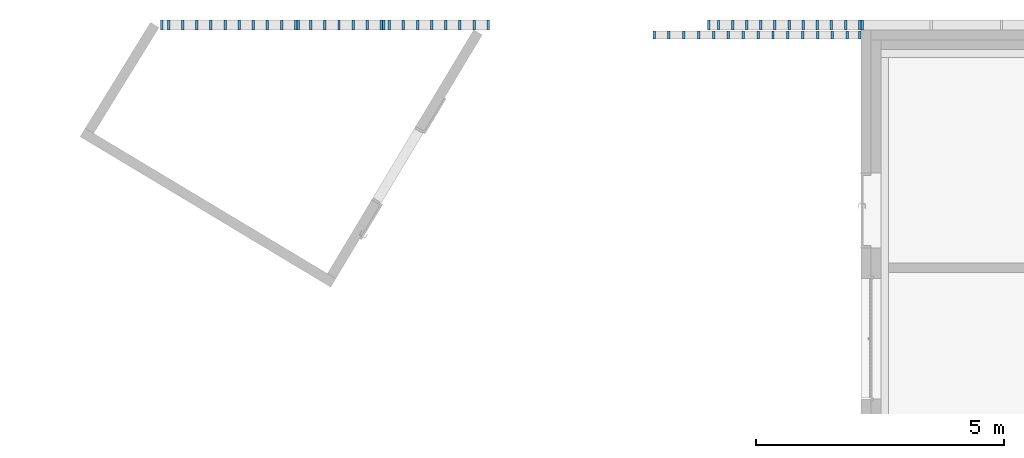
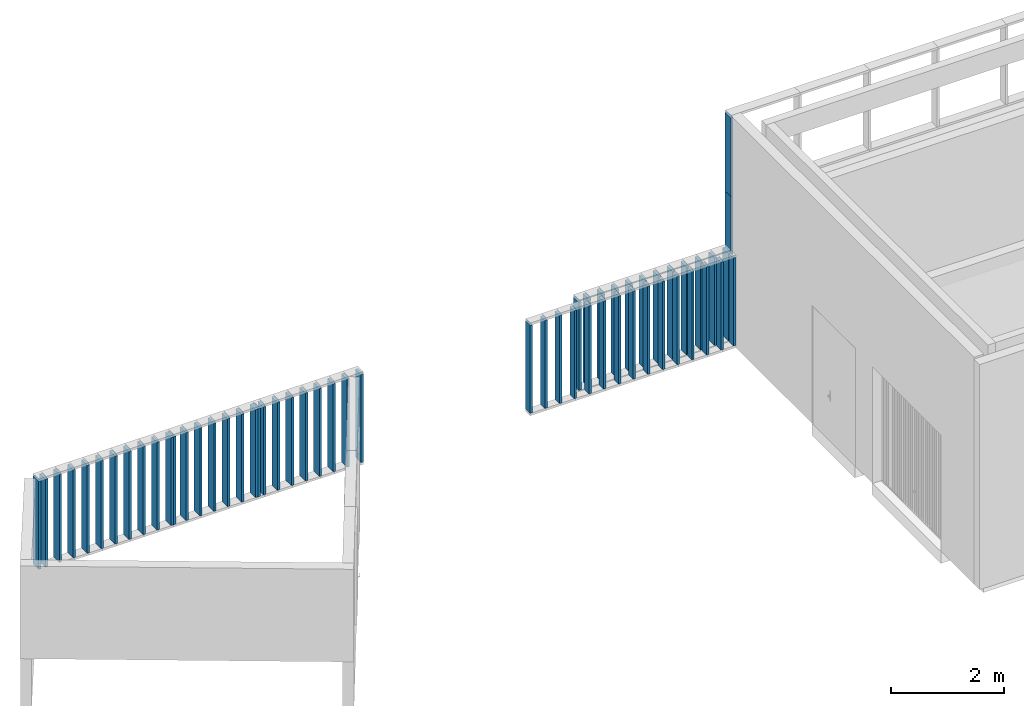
# One storey, part 11 of 240: 56 members, 6 elements without a shape of their own.
"""IFC2X3 building model written with IfcOpenShell, lengths in centimetres."""

from ifc_helpers import new_model, entity, si_unit, converted_unit, derived_unit, direction, frame, origin, origin_2d_with_axis, place, context, subcontext, project, spatial, rectangle, extrude, source, transform, mapped, material, type_object, type_shapes, element, aggregate, save


model = new_model("IFC2X3")

# Units and contexts
model_context = context("Model", 3, precision=0.001, world=origin(), true_north=direction((6.12303176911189e-17, 1.0)))
body_context = subcontext(model_context, "Body", "Model", "MODEL_VIEW")
ifc_project = project(units=[si_unit("LENGTHUNIT", "METRE", prefix="CENTI"), si_unit("AREAUNIT", "SQUARE_METRE"), si_unit("VOLUMEUNIT", "CUBIC_METRE"), converted_unit("PLANEANGLEUNIT", "DEGREE", entity("IfcRatioMeasure", 0.0174532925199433), si_unit("PLANEANGLEUNIT", "RADIAN"), dimensions=[0, 0, 0, 0, 0, 0, 0]), si_unit("MASSUNIT", "GRAM", prefix="KILO"), derived_unit("MASSDENSITYUNIT", [(si_unit("MASSUNIT", "GRAM", prefix="KILO"), 1), (si_unit("LENGTHUNIT", "METRE"), -3)]), si_unit("TIMEUNIT", "SECOND"), si_unit("FREQUENCYUNIT", "HERTZ"), si_unit("THERMODYNAMICTEMPERATUREUNIT", "DEGREE_CELSIUS"), derived_unit("THERMALTRANSMITTANCEUNIT", [(si_unit("MASSUNIT", "GRAM", prefix="KILO"), 1), (si_unit("THERMODYNAMICTEMPERATUREUNIT", "KELVIN"), -1), (si_unit("TIMEUNIT", "SECOND"), -3)]), derived_unit("VOLUMETRICFLOWRATEUNIT", [(si_unit("LENGTHUNIT", "METRE"), 3), (si_unit("TIMEUNIT", "SECOND"), -1)]), si_unit("ELECTRICCURRENTUNIT", "AMPERE"), si_unit("ELECTRICVOLTAGEUNIT", "VOLT"), si_unit("POWERUNIT", "WATT"), si_unit("FORCEUNIT", "NEWTON", prefix="KILO"), si_unit("ILLUMINANCEUNIT", "LUX"), si_unit("LUMINOUSFLUXUNIT", "LUMEN"), si_unit("LUMINOUSINTENSITYUNIT", "CANDELA"), derived_unit("USERDEFINED", [(si_unit("MASSUNIT", "GRAM", prefix="KILO"), -1), (si_unit("LENGTHUNIT", "METRE"), -2), (si_unit("TIMEUNIT", "SECOND"), 3), (si_unit("LUMINOUSFLUXUNIT", "LUMEN"), 1)]), derived_unit("LINEARVELOCITYUNIT", [(si_unit("LENGTHUNIT", "METRE"), 1), (si_unit("TIMEUNIT", "SECOND"), -1)]), si_unit("PRESSUREUNIT", "PASCAL"), derived_unit("USERDEFINED", [(si_unit("LENGTHUNIT", "METRE"), -2), (si_unit("MASSUNIT", "GRAM", prefix="KILO"), 1), (si_unit("TIMEUNIT", "SECOND"), -2)])], contexts=[model_context])

# Site, building, storey
site_placement = place(None, frame((-2781.94577612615, 7442.24238424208, 0.0)))
site = spatial("IfcSite", under=ifc_project, at=site_placement, Name="Default", CompositionType="ELEMENT")
building_placement = place(site_placement, origin())
building = spatial("IfcBuilding", under=site, at=building_placement, CompositionType="ELEMENT")
storey_placement = place(building_placement, origin())
storey = spatial("IfcBuildingStorey", under=building, at=storey_placement, Name="N00 - COO", CompositionType="ELEMENT", Elevation=0.0)

# Curtain wall, members
curtain_wall_type_1 = type_object("IfcCurtainWallType", Name="Mur-rideau:Epines - 200x50mm", PredefinedType="NOTDEFINED")
curtain_wall_1_placement = place(building_placement, origin())
curtain_wall_1 = element("IfcCurtainWall", 1, at=curtain_wall_1_placement, inside=storey, type_object=curtain_wall_type_1, Name="Mur-rideau:Epines - 200x50mm", ObjectType="Mur-rideau:Epines - 200x50mm")
ifc_material = material(Name="Aluminium")
member_type_1 = type_object("IfcMemberType", Name="200x50 mm", PredefinedType="MEMBER")
shared_shape_1 = source(origin(), body_context, "Body", "SweptSolid", [
    extrude(rectangle(XDim=20.0, YDim=5.0, at=origin_2d_with_axis()), frame((-2.5, 0.0, -170.0), z_axis=(0.0, 0.0, 1.0), x_axis=(0.0, -1.0, 0.0)), (0.0, 0.0, 1.0), 169.999999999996),
])
type_shapes(member_type_1, [shared_shape_1])
member_1_placement = place(building_placement, frame((-11230.6616968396, 40.0, 485.0), z_axis=(0.0, 0.0, 1.0), x_axis=(-1.0, 0.0, 0.0)))
member_1 = element("IfcMember", 2, at=member_1_placement, type_object=member_type_1, material=ifc_material, Name="Meneau rectangulaire:200x50 mm", ObjectType="Meneau rectangulaire:200x50 mm", context=body_context, shape_type="MappedRepresentation", body=[
    mapped(shared_shape_1, transform((0.0, 0.0, 0.0), scale=1.0)),
])
member_type_2 = type_object("IfcMemberType", Name="200x50 mm", PredefinedType="MEMBER")
shared_shape_2 = source(origin(), body_context, "Body", "SweptSolid", [
    extrude(rectangle(XDim=20.0, YDim=5.0, at=origin_2d_with_axis()), frame((-2.5, 0.0, -310.0), z_axis=(0.0, 0.0, 1.0), x_axis=(0.0, -1.0, 0.0)), (0.0, 0.0, 1.0), 310.0),
])
type_shapes(member_type_2, [shared_shape_2])
member_2_placement = place(building_placement, frame((-11230.6616968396, 40.0, 315.0), z_axis=(0.0, 0.0, 1.0), x_axis=(-1.0, 0.0, 0.0)))
member_2 = element("IfcMember", 3, at=member_2_placement, type_object=member_type_2, material=ifc_material, Name="Meneau rectangulaire:200x50 mm", ObjectType="Meneau rectangulaire:200x50 mm", context=body_context, shape_type="MappedRepresentation", body=[
    mapped(shared_shape_2, transform((0.0, 0.0, 0.0), scale=1.0)),
])
aggregate(curtain_wall_1, [member_1, member_2])

curtain_wall_type_2 = type_object("IfcCurtainWallType", Name="Mur-SR", PredefinedType="NOTDEFINED")
curtain_wall_2_placement = place(storey_placement, origin())
curtain_wall_2 = element("IfcCurtainWall", 4, at=curtain_wall_2_placement, inside=storey, type_object=curtain_wall_type_2, Name="Mur-SR", ObjectType="Mur-SR")
member_type_3 = type_object("IfcMemberType", Name="Epine nord (200x50 mm)", PredefinedType="MEMBER")
shared_shape_3 = source(origin(), body_context, "Body", "SweptSolid", [
    extrude(rectangle(XDim=20.0, YDim=5.0, at=origin_2d_with_axis()), frame((0.0, 0.0, -190.0), z_axis=(0.0, 0.0, 1.0), x_axis=(0.0, -1.0, 0.0)), (0.0, 0.0, 1.0), 190.0),
])
type_shapes(member_type_3, [shared_shape_3])
member_3_placement = place(storey_placement, frame((-11261.6616968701, 40.0, 5.0), z_axis=(0.0, 0.0, -1.0), x_axis=(-1.0, 0.0, 0.0)))
member_3 = element("IfcMember", 5, at=member_3_placement, type_object=member_type_3, material=ifc_material, Name="Meneau rectangulaire:Epine nord (200x50 mm)", ObjectType="Meneau rectangulaire:Epine nord (200x50 mm)", context=body_context, shape_type="MappedRepresentation", body=[
    mapped(shared_shape_3, transform((0.0, 0.0, 0.0), scale=1.0)),
])
member_4_placement = place(storey_placement, frame((-11290.1616968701, 40.0, 5.0), z_axis=(0.0, 0.0, -1.0), x_axis=(-1.0, 0.0, 0.0)))
member_4 = element("IfcMember", 6, at=member_4_placement, type_object=member_type_3, material=ifc_material, Name="Meneau rectangulaire:Epine nord (200x50 mm)", ObjectType="Meneau rectangulaire:Epine nord (200x50 mm)", context=body_context, shape_type="MappedRepresentation", body=[
    mapped(shared_shape_3, transform((0.0, 0.0, 0.0), scale=1.0)),
])
member_5_placement = place(storey_placement, frame((-11318.6616968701, 40.0, 5.0), z_axis=(0.0, 0.0, -1.0), x_axis=(-1.0, 0.0, 0.0)))
member_5 = element("IfcMember", 7, at=member_5_placement, type_object=member_type_3, material=ifc_material, Name="Meneau rectangulaire:Epine nord (200x50 mm)", ObjectType="Meneau rectangulaire:Epine nord (200x50 mm)", context=body_context, shape_type="MappedRepresentation", body=[
    mapped(shared_shape_3, transform((0.0, 0.0, 0.0), scale=1.0)),
])
member_6_placement = place(storey_placement, frame((-11347.1616968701, 40.0, 5.0), z_axis=(0.0, 0.0, -1.0), x_axis=(-1.0, 0.0, 0.0)))
member_6 = element("IfcMember", 8, at=member_6_placement, type_object=member_type_3, material=ifc_material, Name="Meneau rectangulaire:Epine nord (200x50 mm)", ObjectType="Meneau rectangulaire:Epine nord (200x50 mm)", context=body_context, shape_type="MappedRepresentation", body=[
    mapped(shared_shape_3, transform((0.0, 0.0, 0.0), scale=1.0)),
])
member_7_placement = place(storey_placement, frame((-11375.6616968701, 40.0, 5.0), z_axis=(0.0, 0.0, -1.0), x_axis=(-1.0, 0.0, 0.0)))
member_7 = element("IfcMember", 9, at=member_7_placement, type_object=member_type_3, material=ifc_material, Name="Meneau rectangulaire:Epine nord (200x50 mm)", ObjectType="Meneau rectangulaire:Epine nord (200x50 mm)", context=body_context, shape_type="MappedRepresentation", body=[
    mapped(shared_shape_3, transform((0.0, 0.0, 0.0), scale=1.0)),
])
member_8_placement = place(storey_placement, frame((-11404.1616968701, 40.0, 5.0), z_axis=(0.0, 0.0, -1.0), x_axis=(-1.0, 0.0, 0.0)))
member_8 = element("IfcMember", 10, at=member_8_placement, type_object=member_type_3, material=ifc_material, Name="Meneau rectangulaire:Epine nord (200x50 mm)", ObjectType="Meneau rectangulaire:Epine nord (200x50 mm)", context=body_context, shape_type="MappedRepresentation", body=[
    mapped(shared_shape_3, transform((0.0, 0.0, 0.0), scale=1.0)),
])
member_9_placement = place(storey_placement, frame((-11432.6616968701, 40.0, 5.0), z_axis=(0.0, 0.0, -1.0), x_axis=(-1.0, 0.0, 0.0)))
member_9 = element("IfcMember", 11, at=member_9_placement, type_object=member_type_3, material=ifc_material, Name="Meneau rectangulaire:Epine nord (200x50 mm)", ObjectType="Meneau rectangulaire:Epine nord (200x50 mm)", context=body_context, shape_type="MappedRepresentation", body=[
    mapped(shared_shape_3, transform((0.0, 0.0, 0.0), scale=1.0)),
])
member_10_placement = place(storey_placement, frame((-11461.1616968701, 40.0, 5.0), z_axis=(0.0, 0.0, -1.0), x_axis=(-1.0, 0.0, 0.0)))
member_10 = element("IfcMember", 12, at=member_10_placement, type_object=member_type_3, material=ifc_material, Name="Meneau rectangulaire:Epine nord (200x50 mm)", ObjectType="Meneau rectangulaire:Epine nord (200x50 mm)", context=body_context, shape_type="MappedRepresentation", body=[
    mapped(shared_shape_3, transform((0.0, 0.0, 0.0), scale=1.0)),
])
member_11_placement = place(storey_placement, frame((-11489.6616968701, 40.0, 5.0), z_axis=(0.0, 0.0, -1.0), x_axis=(-1.0, 0.0, 0.0)))
member_11 = element("IfcMember", 13, at=member_11_placement, type_object=member_type_3, material=ifc_material, Name="Meneau rectangulaire:Epine nord (200x50 mm)", ObjectType="Meneau rectangulaire:Epine nord (200x50 mm)", context=body_context, shape_type="MappedRepresentation", body=[
    mapped(shared_shape_3, transform((0.0, 0.0, 0.0), scale=1.0)),
])
member_12_placement = place(storey_placement, frame((-11518.1616968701, 40.0, 5.0), z_axis=(0.0, 0.0, -1.0), x_axis=(-1.0, 0.0, 0.0)))
member_12 = element("IfcMember", 14, at=member_12_placement, type_object=member_type_3, material=ifc_material, Name="Meneau rectangulaire:Epine nord (200x50 mm)", ObjectType="Meneau rectangulaire:Epine nord (200x50 mm)", context=body_context, shape_type="MappedRepresentation", body=[
    mapped(shared_shape_3, transform((0.0, 0.0, 0.0), scale=1.0)),
])

curtain_wall_3_placement = place(storey_placement, origin())
curtain_wall_3 = element("IfcCurtainWall", 15, at=curtain_wall_3_placement, inside=storey, type_object=curtain_wall_type_2, Name="Mur-SR", ObjectType="Mur-SR")
member_13_placement = place(storey_placement, frame((-12011.5781137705, 40.0, 5.0), z_axis=(0.0, 0.0, -1.0), x_axis=(-1.0, 0.0, 0.0)))
member_13 = element("IfcMember", 16, at=member_13_placement, type_object=member_type_3, material=ifc_material, Name="Meneau rectangulaire:Epine nord (200x50 mm)", ObjectType="Meneau rectangulaire:Epine nord (200x50 mm)", context=body_context, shape_type="MappedRepresentation", body=[
    mapped(shared_shape_3, transform((0.0, 0.0, 0.0), scale=1.0)),
])
member_14_placement = place(storey_placement, frame((-12040.0781137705, 40.0, 5.0), z_axis=(0.0, 0.0, -1.0), x_axis=(-1.0, 0.0, 0.0)))
member_14 = element("IfcMember", 17, at=member_14_placement, type_object=member_type_3, material=ifc_material, Name="Meneau rectangulaire:Epine nord (200x50 mm)", ObjectType="Meneau rectangulaire:Epine nord (200x50 mm)", context=body_context, shape_type="MappedRepresentation", body=[
    mapped(shared_shape_3, transform((0.0, 0.0, 0.0), scale=1.0)),
])
member_15_placement = place(storey_placement, frame((-12068.5781137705, 40.0, 5.0), z_axis=(0.0, 0.0, -1.0), x_axis=(-1.0, 0.0, 0.0)))
member_15 = element("IfcMember", 18, at=member_15_placement, type_object=member_type_3, material=ifc_material, Name="Meneau rectangulaire:Epine nord (200x50 mm)", ObjectType="Meneau rectangulaire:Epine nord (200x50 mm)", context=body_context, shape_type="MappedRepresentation", body=[
    mapped(shared_shape_3, transform((0.0, 0.0, 0.0), scale=1.0)),
])
member_16_placement = place(storey_placement, frame((-12097.0781137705, 40.0, 5.0), z_axis=(0.0, 0.0, -1.0), x_axis=(-1.0, 0.0, 0.0)))
member_16 = element("IfcMember", 19, at=member_16_placement, type_object=member_type_3, material=ifc_material, Name="Meneau rectangulaire:Epine nord (200x50 mm)", ObjectType="Meneau rectangulaire:Epine nord (200x50 mm)", context=body_context, shape_type="MappedRepresentation", body=[
    mapped(shared_shape_3, transform((0.0, 0.0, 0.0), scale=1.0)),
])
member_17_placement = place(storey_placement, frame((-12125.5781137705, 40.0, 5.0), z_axis=(0.0, 0.0, -1.0), x_axis=(-1.0, 0.0, 0.0)))
member_17 = element("IfcMember", 20, at=member_17_placement, type_object=member_type_3, material=ifc_material, Name="Meneau rectangulaire:Epine nord (200x50 mm)", ObjectType="Meneau rectangulaire:Epine nord (200x50 mm)", context=body_context, shape_type="MappedRepresentation", body=[
    mapped(shared_shape_3, transform((0.0, 0.0, 0.0), scale=1.0)),
])
member_18_placement = place(storey_placement, frame((-12154.0781137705, 40.0, 5.0), z_axis=(0.0, 0.0, -1.0), x_axis=(-1.0, 0.0, 0.0)))
member_18 = element("IfcMember", 21, at=member_18_placement, type_object=member_type_3, material=ifc_material, Name="Meneau rectangulaire:Epine nord (200x50 mm)", ObjectType="Meneau rectangulaire:Epine nord (200x50 mm)", context=body_context, shape_type="MappedRepresentation", body=[
    mapped(shared_shape_3, transform((0.0, 0.0, 0.0), scale=1.0)),
])
member_19_placement = place(storey_placement, frame((-12182.5781137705, 40.0, 5.0), z_axis=(0.0, 0.0, -1.0), x_axis=(-1.0, 0.0, 0.0)))
member_19 = element("IfcMember", 22, at=member_19_placement, type_object=member_type_3, material=ifc_material, Name="Meneau rectangulaire:Epine nord (200x50 mm)", ObjectType="Meneau rectangulaire:Epine nord (200x50 mm)", context=body_context, shape_type="MappedRepresentation", body=[
    mapped(shared_shape_3, transform((0.0, 0.0, 0.0), scale=1.0)),
])

curtain_wall_4_placement = place(storey_placement, origin())
curtain_wall_4 = element("IfcCurtainWall", 23, at=curtain_wall_4_placement, inside=storey, type_object=curtain_wall_type_2, Name="Mur-SR", ObjectType="Mur-SR")
member_20_placement = place(storey_placement, frame((-12400.0781140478, 40.0, 5.0), z_axis=(0.0, 0.0, -1.0), x_axis=(-1.0, 0.0, 0.0)))
member_20 = element("IfcMember", 24, at=member_20_placement, type_object=member_type_3, material=ifc_material, Name="Meneau rectangulaire:Epine nord (200x50 mm)", ObjectType="Meneau rectangulaire:Epine nord (200x50 mm)", context=body_context, shape_type="MappedRepresentation", body=[
    mapped(shared_shape_3, transform((0.0, 0.0, 0.0), scale=1.0)),
])
member_21_placement = place(storey_placement, frame((-12428.5781140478, 40.0, 5.0), z_axis=(0.0, 0.0, -1.0), x_axis=(-1.0, 0.0, 0.0)))
member_21 = element("IfcMember", 25, at=member_21_placement, type_object=member_type_3, material=ifc_material, Name="Meneau rectangulaire:Epine nord (200x50 mm)", ObjectType="Meneau rectangulaire:Epine nord (200x50 mm)", context=body_context, shape_type="MappedRepresentation", body=[
    mapped(shared_shape_3, transform((0.0, 0.0, 0.0), scale=1.0)),
])
member_22_placement = place(storey_placement, frame((-12457.0781140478, 40.0, 5.0), z_axis=(0.0, 0.0, -1.0), x_axis=(-1.0, 0.0, 0.0)))
member_22 = element("IfcMember", 26, at=member_22_placement, type_object=member_type_3, material=ifc_material, Name="Meneau rectangulaire:Epine nord (200x50 mm)", ObjectType="Meneau rectangulaire:Epine nord (200x50 mm)", context=body_context, shape_type="MappedRepresentation", body=[
    mapped(shared_shape_3, transform((0.0, 0.0, 0.0), scale=1.0)),
])
member_23_placement = place(storey_placement, frame((-12485.5781140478, 40.0, 5.0), z_axis=(0.0, 0.0, -1.0), x_axis=(-1.0, 0.0, 0.0)))
member_23 = element("IfcMember", 27, at=member_23_placement, type_object=member_type_3, material=ifc_material, Name="Meneau rectangulaire:Epine nord (200x50 mm)", ObjectType="Meneau rectangulaire:Epine nord (200x50 mm)", context=body_context, shape_type="MappedRepresentation", body=[
    mapped(shared_shape_3, transform((0.0, 0.0, 0.0), scale=1.0)),
])
member_24_placement = place(storey_placement, frame((-12514.0781140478, 40.0, 5.0), z_axis=(0.0, 0.0, -1.0), x_axis=(-1.0, 0.0, 0.0)))
member_24 = element("IfcMember", 28, at=member_24_placement, type_object=member_type_3, material=ifc_material, Name="Meneau rectangulaire:Epine nord (200x50 mm)", ObjectType="Meneau rectangulaire:Epine nord (200x50 mm)", context=body_context, shape_type="MappedRepresentation", body=[
    mapped(shared_shape_3, transform((0.0, 0.0, 0.0), scale=1.0)),
])
member_25_placement = place(storey_placement, frame((-12542.5781140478, 40.0, 5.0), z_axis=(0.0, 0.0, -1.0), x_axis=(-1.0, 0.0, 0.0)))
member_25 = element("IfcMember", 29, at=member_25_placement, type_object=member_type_3, material=ifc_material, Name="Meneau rectangulaire:Epine nord (200x50 mm)", ObjectType="Meneau rectangulaire:Epine nord (200x50 mm)", context=body_context, shape_type="MappedRepresentation", body=[
    mapped(shared_shape_3, transform((0.0, 0.0, 0.0), scale=1.0)),
])
member_26_placement = place(storey_placement, frame((-12571.0781140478, 40.0, 5.0), z_axis=(0.0, 0.0, -1.0), x_axis=(-1.0, 0.0, 0.0)))
member_26 = element("IfcMember", 30, at=member_26_placement, type_object=member_type_3, material=ifc_material, Name="Meneau rectangulaire:Epine nord (200x50 mm)", ObjectType="Meneau rectangulaire:Epine nord (200x50 mm)", context=body_context, shape_type="MappedRepresentation", body=[
    mapped(shared_shape_3, transform((0.0, 0.0, 0.0), scale=1.0)),
])
member_27_placement = place(storey_placement, frame((-12599.5781140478, 40.0, 5.0), z_axis=(0.0, 0.0, -1.0), x_axis=(-1.0, 0.0, 0.0)))
member_27 = element("IfcMember", 31, at=member_27_placement, type_object=member_type_3, material=ifc_material, Name="Meneau rectangulaire:Epine nord (200x50 mm)", ObjectType="Meneau rectangulaire:Epine nord (200x50 mm)", context=body_context, shape_type="MappedRepresentation", body=[
    mapped(shared_shape_3, transform((0.0, 0.0, 0.0), scale=1.0)),
])
member_28_placement = place(storey_placement, frame((-12628.0781140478, 40.0, 5.0), z_axis=(0.0, 0.0, -1.0), x_axis=(-1.0, 0.0, 0.0)))
member_28 = element("IfcMember", 32, at=member_28_placement, type_object=member_type_3, material=ifc_material, Name="Meneau rectangulaire:Epine nord (200x50 mm)", ObjectType="Meneau rectangulaire:Epine nord (200x50 mm)", context=body_context, shape_type="MappedRepresentation", body=[
    mapped(shared_shape_3, transform((0.0, 0.0, 0.0), scale=1.0)),
])

curtain_wall_5_placement = place(storey_placement, origin())
curtain_wall_5 = element("IfcCurtainWall", 33, at=curtain_wall_5_placement, inside=storey, type_object=curtain_wall_type_2, Name="Mur-SR", ObjectType="Mur-SR")
member_29_placement = place(storey_placement, frame((-12227.0781140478, 40.0, 5.0), z_axis=(0.0, 0.0, -1.0), x_axis=(-1.0, 0.0, 0.0)))
member_29 = element("IfcMember", 34, at=member_29_placement, type_object=member_type_3, material=ifc_material, Name="Meneau rectangulaire:Epine nord (200x50 mm)", ObjectType="Meneau rectangulaire:Epine nord (200x50 mm)", context=body_context, shape_type="MappedRepresentation", body=[
    mapped(shared_shape_3, transform((0.0, 0.0, 0.0), scale=1.0)),
])
member_30_placement = place(storey_placement, frame((-12255.5781140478, 40.0, 5.0), z_axis=(0.0, 0.0, -1.0), x_axis=(-1.0, 0.0, 0.0)))
member_30 = element("IfcMember", 35, at=member_30_placement, type_object=member_type_3, material=ifc_material, Name="Meneau rectangulaire:Epine nord (200x50 mm)", ObjectType="Meneau rectangulaire:Epine nord (200x50 mm)", context=body_context, shape_type="MappedRepresentation", body=[
    mapped(shared_shape_3, transform((0.0, 0.0, 0.0), scale=1.0)),
])
member_31_placement = place(storey_placement, frame((-12284.0781140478, 40.0, 5.0), z_axis=(0.0, 0.0, -1.0), x_axis=(-1.0, 0.0, 0.0)))
member_31 = element("IfcMember", 36, at=member_31_placement, type_object=member_type_3, material=ifc_material, Name="Meneau rectangulaire:Epine nord (200x50 mm)", ObjectType="Meneau rectangulaire:Epine nord (200x50 mm)", context=body_context, shape_type="MappedRepresentation", body=[
    mapped(shared_shape_3, transform((0.0, 0.0, 0.0), scale=1.0)),
])
member_32_placement = place(storey_placement, frame((-12312.5781140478, 40.0, 5.0), z_axis=(0.0, 0.0, -1.0), x_axis=(-1.0, 0.0, 0.0)))
member_32 = element("IfcMember", 37, at=member_32_placement, type_object=member_type_3, material=ifc_material, Name="Meneau rectangulaire:Epine nord (200x50 mm)", ObjectType="Meneau rectangulaire:Epine nord (200x50 mm)", context=body_context, shape_type="MappedRepresentation", body=[
    mapped(shared_shape_3, transform((0.0, 0.0, 0.0), scale=1.0)),
])
member_33_placement = place(storey_placement, frame((-12341.0781140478, 40.0, 5.0), z_axis=(0.0, 0.0, -1.0), x_axis=(-1.0, 0.0, 0.0)))
member_33 = element("IfcMember", 38, at=member_33_placement, type_object=member_type_3, material=ifc_material, Name="Meneau rectangulaire:Epine nord (200x50 mm)", ObjectType="Meneau rectangulaire:Epine nord (200x50 mm)", context=body_context, shape_type="MappedRepresentation", body=[
    mapped(shared_shape_3, transform((0.0, 0.0, 0.0), scale=1.0)),
])

# Member
member_type_4 = type_object("IfcMemberType", Name="Epine nord (200x50 mm)", PredefinedType="MEMBER")
shared_shape_4 = source(origin(), body_context, "Body", "SweptSolid", [
    extrude(rectangle(XDim=20.0, YDim=5.0, at=origin_2d_with_axis()), frame((-2.5, 0.0, -190.0), z_axis=(0.0, 0.0, 1.0), x_axis=(0.0, -1.0, 0.0)), (0.0, 0.0, 1.0), 190.0),
])
type_shapes(member_type_4, [shared_shape_4])
member_34_placement = place(storey_placement, frame((-11230.6616968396, 40.0, 195.0)))
member_34 = element("IfcMember", 39, at=member_34_placement, type_object=member_type_4, material=ifc_material, Name="Meneau rectangulaire:Epine nord (200x50 mm)", ObjectType="Meneau rectangulaire:Epine nord (200x50 mm)", context=body_context, shape_type="MappedRepresentation", body=[
    mapped(shared_shape_4, transform((0.0, 0.0, 0.0), scale=1.0)),
])

member_35_placement = place(storey_placement, frame((-11980.57811374, 40.0, 195.0)))
member_35 = element("IfcMember", 40, at=member_35_placement, type_object=member_type_4, material=ifc_material, Name="Meneau rectangulaire:Epine nord (200x50 mm)", ObjectType="Meneau rectangulaire:Epine nord (200x50 mm)", context=body_context, shape_type="MappedRepresentation", body=[
    mapped(shared_shape_4, transform((0.0, 0.0, 0.0), scale=1.0)),
])

member_36_placement = place(storey_placement, frame((-12369.0781140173, 40.0, 195.0)))
member_36 = element("IfcMember", 41, at=member_36_placement, type_object=member_type_4, material=ifc_material, Name="Meneau rectangulaire:Epine nord (200x50 mm)", ObjectType="Meneau rectangulaire:Epine nord (200x50 mm)", context=body_context, shape_type="MappedRepresentation", body=[
    mapped(shared_shape_4, transform((0.0, 0.0, 0.0), scale=1.0)),
])

member_37_placement = place(storey_placement, frame((-12196.0781140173, 40.0, 195.0)))
member_37 = element("IfcMember", 42, at=member_37_placement, type_object=member_type_4, material=ifc_material, Name="Meneau rectangulaire:Epine nord (200x50 mm)", ObjectType="Meneau rectangulaire:Epine nord (200x50 mm)", context=body_context, shape_type="MappedRepresentation", body=[
    mapped(shared_shape_4, transform((0.0, 0.0, 0.0), scale=1.0)),
])

member_type_5 = type_object("IfcMemberType", Name="Epine nord (200x50 mm)", PredefinedType="MEMBER")
shared_shape_5 = source(origin(), body_context, "Body", "SweptSolid", [
    extrude(rectangle(XDim=20.0, YDim=5.0, at=origin_2d_with_axis()), frame((-2.5, 0.0, -190.0), z_axis=(0.0, 0.0, 1.0), x_axis=(0.0, -1.0, 0.0)), (0.0, 0.0, 1.0), 190.0),
])
type_shapes(member_type_5, [shared_shape_5])
member_38_placement = place(storey_placement, frame((-11540.6749531, 40.0, 5.0), z_axis=(0.0, 0.0, -1.0), x_axis=(-1.0, 0.0, 0.0)))
member_38 = element("IfcMember", 43, at=member_38_placement, type_object=member_type_5, material=ifc_material, Name="Meneau rectangulaire:Epine nord (200x50 mm)", ObjectType="Meneau rectangulaire:Epine nord (200x50 mm)", context=body_context, shape_type="MappedRepresentation", body=[
    mapped(shared_shape_5, transform((0.0, 0.0, 0.0), scale=1.0)),
])

aggregate(curtain_wall_2, [member_3, member_4, member_5, member_6, member_7, member_8, member_9, member_10, member_11, member_12, member_34, member_38])

member_39_placement = place(storey_placement, frame((-12196.0781140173, 40.0, 5.0), z_axis=(0.0, 0.0, -1.0), x_axis=(-1.0, 0.0, 0.0)))
member_39 = element("IfcMember", 44, at=member_39_placement, type_object=member_type_5, material=ifc_material, Name="Meneau rectangulaire:Epine nord (200x50 mm)", ObjectType="Meneau rectangulaire:Epine nord (200x50 mm)", context=body_context, shape_type="MappedRepresentation", body=[
    mapped(shared_shape_5, transform((0.0, 0.0, 0.0), scale=1.0)),
])

aggregate(curtain_wall_3, [member_13, member_14, member_15, member_16, member_17, member_18, member_35, member_39, member_19])

member_40_placement = place(storey_placement, frame((-12644.1680350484, 40.0, 5.0), z_axis=(0.0, 0.0, -1.0), x_axis=(-1.0, 0.0, 0.0)))
member_40 = element("IfcMember", 45, at=member_40_placement, type_object=member_type_5, material=ifc_material, Name="Meneau rectangulaire:Epine nord (200x50 mm)", ObjectType="Meneau rectangulaire:Epine nord (200x50 mm)", context=body_context, shape_type="MappedRepresentation", body=[
    mapped(shared_shape_5, transform((0.0, 0.0, 0.0), scale=1.0)),
])

aggregate(curtain_wall_4, [member_40, member_20, member_21, member_22, member_23, member_24, member_25, member_26, member_27, member_28, member_36])

member_41_placement = place(storey_placement, frame((-12369.0781140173, 40.0, 5.0), z_axis=(0.0, 0.0, -1.0), x_axis=(-1.0, 0.0, 0.0)))
member_41 = element("IfcMember", 46, at=member_41_placement, type_object=member_type_5, material=ifc_material, Name="Meneau rectangulaire:Epine nord (200x50 mm)", ObjectType="Meneau rectangulaire:Epine nord (200x50 mm)", context=body_context, shape_type="MappedRepresentation", body=[
    mapped(shared_shape_5, transform((0.0, 0.0, 0.0), scale=1.0)),
])

aggregate(curtain_wall_5, [member_29, member_30, member_31, member_32, member_33, member_37, member_41])

# Curtain wall, members
curtain_wall_type_3 = type_object("IfcCurtainWallType", Name="Mur-SR", PredefinedType="NOTDEFINED")
curtain_wall_6_placement = place(storey_placement, origin())
curtain_wall_6 = element("IfcCurtainWall", 47, at=curtain_wall_6_placement, inside=storey, type_object=curtain_wall_type_3, Name="Mur-SR", ObjectType="Mur-SR")
member_type_6 = type_object("IfcMemberType", Name="Epine nord (160x50 mm)", PredefinedType="MEMBER")
shared_shape_6 = source(origin(), body_context, "Body", "SweptSolid", [
    extrude(rectangle(XDim=16.0, YDim=5.0, at=origin_2d_with_axis()), frame((0.0, 0.0, -190.0), z_axis=(0.0, 0.0, 1.0), x_axis=(0.0, -1.0, 0.0)), (0.0, 0.0, 1.0), 190.0),
])
type_shapes(member_type_6, [shared_shape_6])
member_42_placement = place(storey_placement, frame((-11618.1616968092, 20.0, 5.0), z_axis=(0.0, 0.0, -1.0), x_axis=(1.0, 0.0, 0.0)))
member_42 = element("IfcMember", 48, at=member_42_placement, type_object=member_type_6, material=ifc_material, Name="Meneau rectangulaire:Epine nord (160x50 mm)", ObjectType="Meneau rectangulaire:Epine nord (160x50 mm)", context=body_context, shape_type="MappedRepresentation", body=[
    mapped(shared_shape_6, transform((0.0, 0.0, 0.0), scale=1.0)),
])
member_43_placement = place(storey_placement, frame((-11588.1616968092, 20.0, 5.0), z_axis=(0.0, 0.0, -1.0), x_axis=(1.0, 0.0, 0.0)))
member_43 = element("IfcMember", 49, at=member_43_placement, type_object=member_type_6, material=ifc_material, Name="Meneau rectangulaire:Epine nord (160x50 mm)", ObjectType="Meneau rectangulaire:Epine nord (160x50 mm)", context=body_context, shape_type="MappedRepresentation", body=[
    mapped(shared_shape_6, transform((0.0, 0.0, 0.0), scale=1.0)),
])
member_44_placement = place(storey_placement, frame((-11558.1616968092, 20.0, 5.0), z_axis=(0.0, 0.0, -1.0), x_axis=(1.0, 0.0, 0.0)))
member_44 = element("IfcMember", 50, at=member_44_placement, type_object=member_type_6, material=ifc_material, Name="Meneau rectangulaire:Epine nord (160x50 mm)", ObjectType="Meneau rectangulaire:Epine nord (160x50 mm)", context=body_context, shape_type="MappedRepresentation", body=[
    mapped(shared_shape_6, transform((0.0, 0.0, 0.0), scale=1.0)),
])
member_45_placement = place(storey_placement, frame((-11528.1616968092, 20.0, 5.0), z_axis=(0.0, 0.0, -1.0), x_axis=(1.0, 0.0, 0.0)))
member_45 = element("IfcMember", 51, at=member_45_placement, type_object=member_type_6, material=ifc_material, Name="Meneau rectangulaire:Epine nord (160x50 mm)", ObjectType="Meneau rectangulaire:Epine nord (160x50 mm)", context=body_context, shape_type="MappedRepresentation", body=[
    mapped(shared_shape_6, transform((0.0, 0.0, 0.0), scale=1.0)),
])
member_46_placement = place(storey_placement, frame((-11498.1616968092, 20.0, 5.0), z_axis=(0.0, 0.0, -1.0), x_axis=(1.0, 0.0, 0.0)))
member_46 = element("IfcMember", 52, at=member_46_placement, type_object=member_type_6, material=ifc_material, Name="Meneau rectangulaire:Epine nord (160x50 mm)", ObjectType="Meneau rectangulaire:Epine nord (160x50 mm)", context=body_context, shape_type="MappedRepresentation", body=[
    mapped(shared_shape_6, transform((0.0, 0.0, 0.0), scale=1.0)),
])
member_47_placement = place(storey_placement, frame((-11468.1616968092, 20.0, 5.0), z_axis=(0.0, 0.0, -1.0), x_axis=(1.0, 0.0, 0.0)))
member_47 = element("IfcMember", 53, at=member_47_placement, type_object=member_type_6, material=ifc_material, Name="Meneau rectangulaire:Epine nord (160x50 mm)", ObjectType="Meneau rectangulaire:Epine nord (160x50 mm)", context=body_context, shape_type="MappedRepresentation", body=[
    mapped(shared_shape_6, transform((0.0, 0.0, 0.0), scale=1.0)),
])
member_48_placement = place(storey_placement, frame((-11438.1616968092, 20.0, 5.0), z_axis=(0.0, 0.0, -1.0), x_axis=(1.0, 0.0, 0.0)))
member_48 = element("IfcMember", 54, at=member_48_placement, type_object=member_type_6, material=ifc_material, Name="Meneau rectangulaire:Epine nord (160x50 mm)", ObjectType="Meneau rectangulaire:Epine nord (160x50 mm)", context=body_context, shape_type="MappedRepresentation", body=[
    mapped(shared_shape_6, transform((0.0, 0.0, 0.0), scale=1.0)),
])
member_49_placement = place(storey_placement, frame((-11408.1616968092, 20.0, 5.0), z_axis=(0.0, 0.0, -1.0), x_axis=(1.0, 0.0, 0.0)))
member_49 = element("IfcMember", 55, at=member_49_placement, type_object=member_type_6, material=ifc_material, Name="Meneau rectangulaire:Epine nord (160x50 mm)", ObjectType="Meneau rectangulaire:Epine nord (160x50 mm)", context=body_context, shape_type="MappedRepresentation", body=[
    mapped(shared_shape_6, transform((0.0, 0.0, 0.0), scale=1.0)),
])
member_50_placement = place(storey_placement, frame((-11378.1616968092, 20.0, 5.0), z_axis=(0.0, 0.0, -1.0), x_axis=(1.0, 0.0, 0.0)))
member_50 = element("IfcMember", 56, at=member_50_placement, type_object=member_type_6, material=ifc_material, Name="Meneau rectangulaire:Epine nord (160x50 mm)", ObjectType="Meneau rectangulaire:Epine nord (160x50 mm)", context=body_context, shape_type="MappedRepresentation", body=[
    mapped(shared_shape_6, transform((0.0, 0.0, 0.0), scale=1.0)),
])
member_51_placement = place(storey_placement, frame((-11348.1616968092, 20.0, 5.0), z_axis=(0.0, 0.0, -1.0), x_axis=(1.0, 0.0, 0.0)))
member_51 = element("IfcMember", 57, at=member_51_placement, type_object=member_type_6, material=ifc_material, Name="Meneau rectangulaire:Epine nord (160x50 mm)", ObjectType="Meneau rectangulaire:Epine nord (160x50 mm)", context=body_context, shape_type="MappedRepresentation", body=[
    mapped(shared_shape_6, transform((0.0, 0.0, 0.0), scale=1.0)),
])
member_52_placement = place(storey_placement, frame((-11318.1616968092, 20.0, 5.0), z_axis=(0.0, 0.0, -1.0), x_axis=(1.0, 0.0, 0.0)))
member_52 = element("IfcMember", 58, at=member_52_placement, type_object=member_type_6, material=ifc_material, Name="Meneau rectangulaire:Epine nord (160x50 mm)", ObjectType="Meneau rectangulaire:Epine nord (160x50 mm)", context=body_context, shape_type="MappedRepresentation", body=[
    mapped(shared_shape_6, transform((0.0, 0.0, 0.0), scale=1.0)),
])
member_53_placement = place(storey_placement, frame((-11288.1616968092, 20.0, 5.0), z_axis=(0.0, 0.0, -1.0), x_axis=(1.0, 0.0, 0.0)))
member_53 = element("IfcMember", 59, at=member_53_placement, type_object=member_type_6, material=ifc_material, Name="Meneau rectangulaire:Epine nord (160x50 mm)", ObjectType="Meneau rectangulaire:Epine nord (160x50 mm)", context=body_context, shape_type="MappedRepresentation", body=[
    mapped(shared_shape_6, transform((0.0, 0.0, 0.0), scale=1.0)),
])
member_54_placement = place(storey_placement, frame((-11258.1616968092, 20.0, 5.0), z_axis=(0.0, 0.0, -1.0), x_axis=(1.0, 0.0, 0.0)))
member_54 = element("IfcMember", 60, at=member_54_placement, type_object=member_type_6, material=ifc_material, Name="Meneau rectangulaire:Epine nord (160x50 mm)", ObjectType="Meneau rectangulaire:Epine nord (160x50 mm)", context=body_context, shape_type="MappedRepresentation", body=[
    mapped(shared_shape_6, transform((0.0, 0.0, 0.0), scale=1.0)),
])
member_type_7 = type_object("IfcMemberType", Name="Epine nord (160x50 mm)", PredefinedType="MEMBER")
shared_shape_7 = source(origin(), body_context, "Body", "SweptSolid", [
    extrude(rectangle(XDim=16.0, YDim=5.0, at=origin_2d_with_axis()), frame((-2.5, 0.0, -190.0), z_axis=(0.0, 0.0, 1.0), x_axis=(0.0, -1.0, 0.0)), (0.0, 0.0, 1.0), 190.0),
])
type_shapes(member_type_7, [shared_shape_7])
member_55_placement = place(storey_placement, frame((-11230.6616968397, 20.0, 5.0), z_axis=(0.0, 0.0, -1.0), x_axis=(1.0, 0.0, 0.0)))
member_55 = element("IfcMember", 61, at=member_55_placement, type_object=member_type_7, material=ifc_material, Name="Meneau rectangulaire:Epine nord (160x50 mm)", ObjectType="Meneau rectangulaire:Epine nord (160x50 mm)", context=body_context, shape_type="MappedRepresentation", body=[
    mapped(shared_shape_7, transform((0.0, 0.0, 0.0), scale=1.0)),
])
member_type_8 = type_object("IfcMemberType", Name="Epine nord (160x50 mm)", PredefinedType="MEMBER")
shared_shape_8 = source(origin(), body_context, "Body", "SweptSolid", [
    extrude(rectangle(XDim=16.0, YDim=5.0, at=origin_2d_with_axis()), frame((-2.5, 0.0, -190.0), z_axis=(0.0, 0.0, 1.0), x_axis=(0.0, -1.0, 0.0)), (0.0, 0.0, 1.0), 190.0),
])
type_shapes(member_type_8, [shared_shape_8])
member_56_placement = place(storey_placement, frame((-11650.6616968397, 20.0, 195.0), z_axis=(0.0, 0.0, 1.0), x_axis=(-1.0, 0.0, 0.0)))
member_56 = element("IfcMember", 62, at=member_56_placement, type_object=member_type_8, material=ifc_material, Name="Meneau rectangulaire:Epine nord (160x50 mm)", ObjectType="Meneau rectangulaire:Epine nord (160x50 mm)", context=body_context, shape_type="MappedRepresentation", body=[
    mapped(shared_shape_8, transform((0.0, 0.0, 0.0), scale=1.0)),
])
aggregate(curtain_wall_6, [member_42, member_43, member_44, member_55, member_56, member_45, member_46, member_47, member_48, member_49, member_50, member_51, member_52, member_53, member_54])

save(model, "model.ifc")
